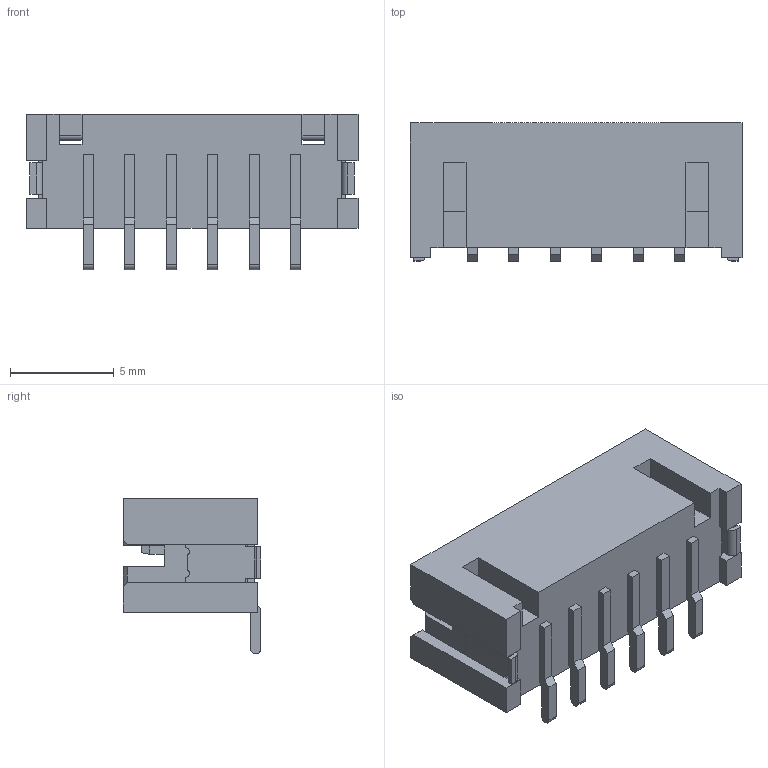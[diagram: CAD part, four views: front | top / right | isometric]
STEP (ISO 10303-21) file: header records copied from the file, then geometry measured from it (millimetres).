
FILE_DESCRIPTION((''),'2;1');
FILE_NAME('S-51332-005XX-XXX','2016-09-19T',('d29855'),(''),'CREO PARAMETRIC BY PTC INC, 2014500','CREO PARAMETRIC BY PTC INC, 2014500','');
FILE_SCHEMA(('CONFIG_CONTROL_DESIGN'));
Length unit declared in the file: millimetre
Products named in the file (1): S-51332-005XX-XXX
Bounding box: 16 x 6.65 x 7.5 mm (x, y, z)
Volume: 272.8 mm3; surface area: 765.1 mm2
Topology: 1 solids, 1 shells, 257 faces, 749 edges, 494 vertices
Faces by surface type: plane 233, cylinder 24
Entity records: 8338 total; most frequent: CARTESIAN_POINT 1470, ORIENTED_EDGE 1434, DIRECTION 1315, EDGE_CURVE 717, VECTOR 701, LINE 701, VERTEX_POINT 462, AXIS2_PLACEMENT_3D 307
